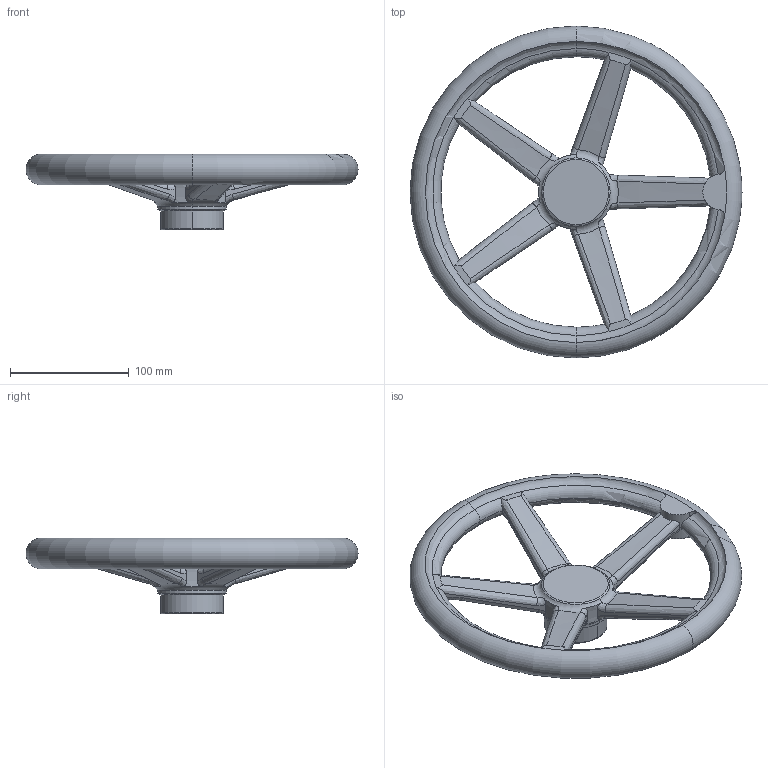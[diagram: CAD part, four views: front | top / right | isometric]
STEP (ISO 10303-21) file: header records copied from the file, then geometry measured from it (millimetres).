
FILE_DESCRIPTION (( 'STEP AP203' ), '1' );
FILE_NAME ('nv280.STEP', '2021-10-26T04:16:16', ( '' ), ( '' ), 'SwSTEP 2.0', 'SolidWorks 2020', '' );
FILE_SCHEMA (( 'CONFIG_CONTROL_DESIGN' ));
Length unit declared in the file: millimetre
Products named in the file (1): nv280
Bounding box: 280 x 280 x 64 mm (x, y, z)
Volume: 635123.1 mm3; surface area: 104650.6 mm2
Topology: 1 solids, 1 shells, 124 faces, 333 edges, 202 vertices
Faces by surface type: bspline 50, torus 28, plane 18, cylinder 14, cone 14
Entity records: 6633 total; most frequent: CARTESIAN_POINT 3916, ORIENTED_EDGE 666, DIRECTION 428, EDGE_CURVE 333, VERTEX_POINT 202, AXIS2_PLACEMENT_3D 202, B_SPLINE_CURVE_WITH_KNOTS 182, CIRCLE 127
